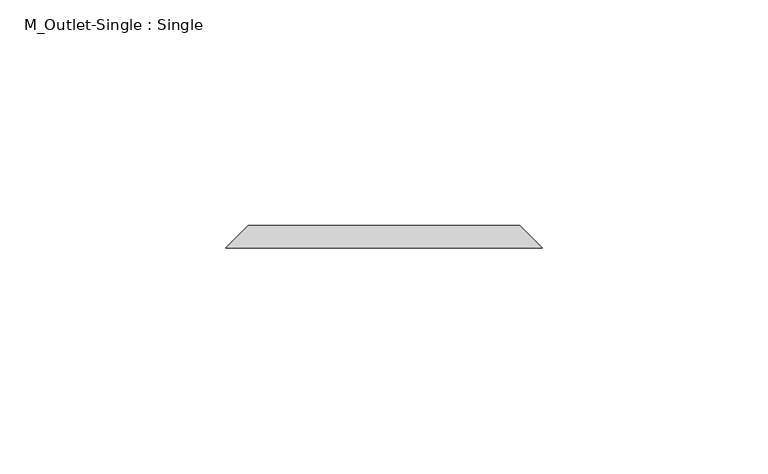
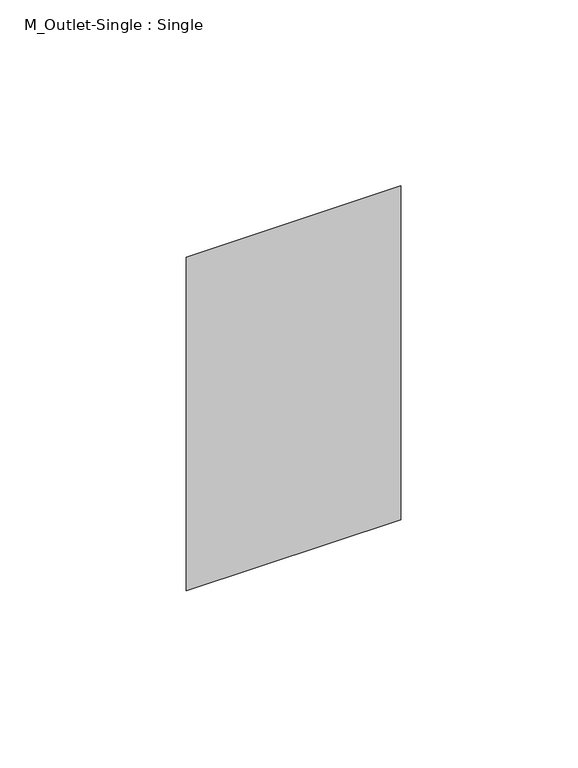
"""IFC4 building model written with IfcOpenShell, lengths in millimetres: proxy geometry, M_Outlet-Single : Single."""

from ifc_helpers import new_model, si_unit, origin, place, context, project, spatial, faceted_brep, source, transform, mapped, element, save


def m_outlet_single_single_3d2dbdc4(model_context):
    return source(origin(), model_context, "Body", "Brep", [
        faceted_brep([(95.0, 57.0, 357.5), (155.0, 57.0, 357.5), (155.0, 57.0, 252.5), (95.0, 57.0, 252.5), (90.0, 52.0, 362.5), (90.0, 52.0, 247.5), (160.0, 52.0, 247.5), (160.0, 52.0, 362.5)], [[[0, 1, 2, 3]], [[4, 5, 6, 7]], [[4, 7, 1, 0]], [[7, 6, 2, 1]], [[6, 5, 3, 2]], [[5, 4, 0, 3]]]),
    ])


if __name__ == "__main__":
    model = new_model("IFC4")
    model_context = context("Model", 3, world=origin())
    ifc_project = project(units=[si_unit("LENGTHUNIT", "METRE", prefix="MILLI")], contexts=[model_context])
    site = spatial("IfcSite", under=ifc_project)
    building = spatial("IfcBuilding", under=site)
    placement = place(None, origin())
    m_outlet_single_single_shape = m_outlet_single_single_3d2dbdc4(model_context)
    element("IfcBuildingElementProxy", 1, Name="M_Outlet-Single : Single", ObjectType="M_Outlet-Single : Single", at=placement, inside=building, context=model_context, shape_type="MappedRepresentation", body=[
        mapped(m_outlet_single_single_shape, transform((0.0, 0.0, 0.0), x_axis=(1.0, 0.0, 0.0), y_axis=(0.0, 1.0, 0.0), z_axis=(0.0, 0.0, 1.0))),
    ])
    save(model, "model.ifc")
